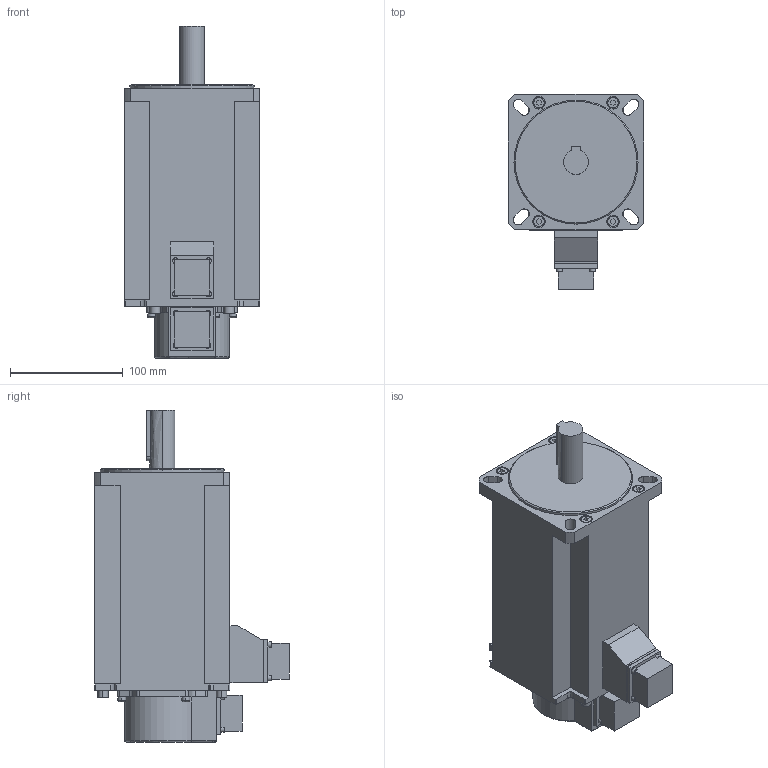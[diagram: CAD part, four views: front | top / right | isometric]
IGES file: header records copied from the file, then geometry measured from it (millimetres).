
Start section:  PTC IGES file: rsms_30atk3-070830.igs
Global section: file name: rsms_30atk3-070830.igs; native system: Pro/ENGINEER by Parametric Technology Corporation; preprocessor: 2004440; author: Administrator; organization: Unknown; date: 070830.160411; units: millimetre
Bounding box: 120 x 172.7 x 294.5 mm (x, y, z)
Volume: 2772638.2 mm3; surface area: 154720.2 mm2
Topology: 1 solids, 1 shells, 274 faces, 708 edges, 464 vertices
Faces by surface type: bspline 171, revolution 103
